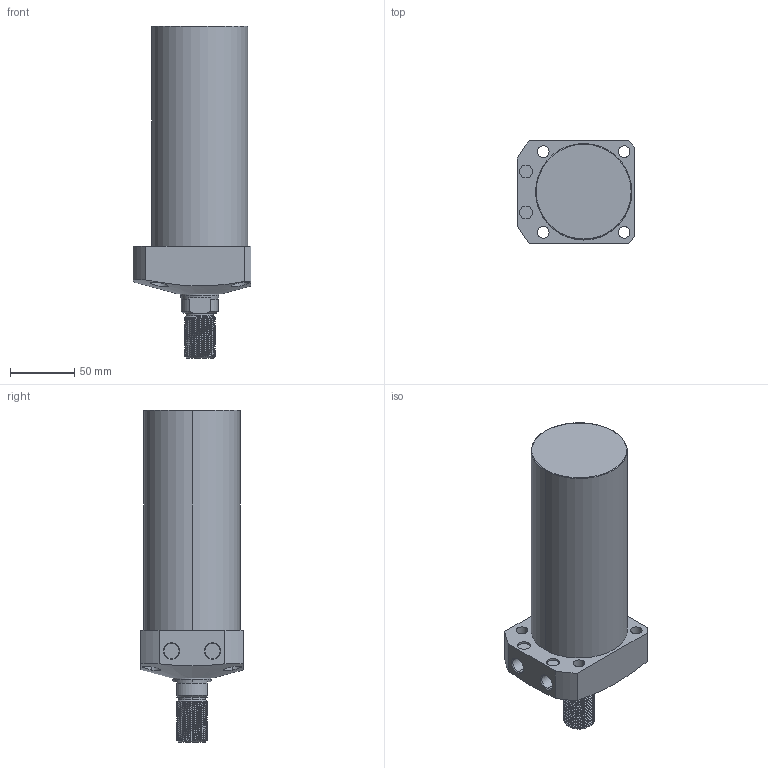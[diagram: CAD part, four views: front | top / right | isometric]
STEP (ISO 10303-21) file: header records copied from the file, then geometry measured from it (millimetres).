
FILE_DESCRIPTION (( 'STEP AP203' ), '1' );
FILE_NAME ('CLL-075CT-135.STEP', '2020-01-08T12:09:17', ( '' ), ( '' ), 'SwSTEP 2.0', 'SolidWorks 2015', '' );
FILE_SCHEMA (( 'CONFIG_CONTROL_DESIGN' ));
Length unit declared in the file: millimetre
Products named in the file (1): CLL-075CT-135
Bounding box: 92 x 80 x 259 mm (x, y, z)
Volume: 1001196.7 mm3; surface area: 75279.4 mm2
Topology: 1 solids, 1 shells, 121 faces, 310 edges, 202 vertices
Faces by surface type: cylinder 77, plane 23, cone 17, torus 2, bspline 2
Entity records: 6517 total; most frequent: CARTESIAN_POINT 3727, ORIENTED_EDGE 620, DIRECTION 517, EDGE_CURVE 310, AXIS2_PLACEMENT_3D 204, VERTEX_POINT 202, EDGE_LOOP 140, ADVANCED_FACE 121
